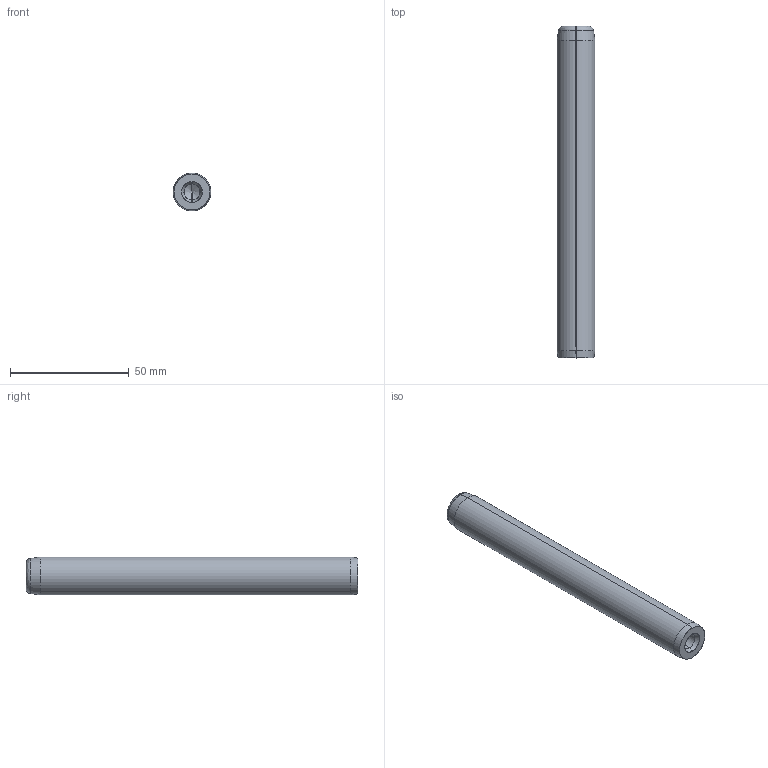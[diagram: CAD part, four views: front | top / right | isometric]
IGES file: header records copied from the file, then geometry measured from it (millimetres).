
Start section: SolidWorks IGES file using analytic representation for surfaces
Global section: file name: C:\Users\Dell\Desktop\deltakont\hatalýlar\D14\Ø16\D14_16140.IGS; native system: SolidWorks 2010; preprocessor: SolidWorks 2010; author: Dell; date: 111225.004342; units: metre
Bounding box: 16 x 140 x 16 mm (x, y, z)
Surface area: 8433.4 mm2 (no closed solid volume)
Topology: 0 solids, 0 shells, 22 faces, 208 edges, 204 vertices
Faces by surface type: revolution 18, bspline 4
